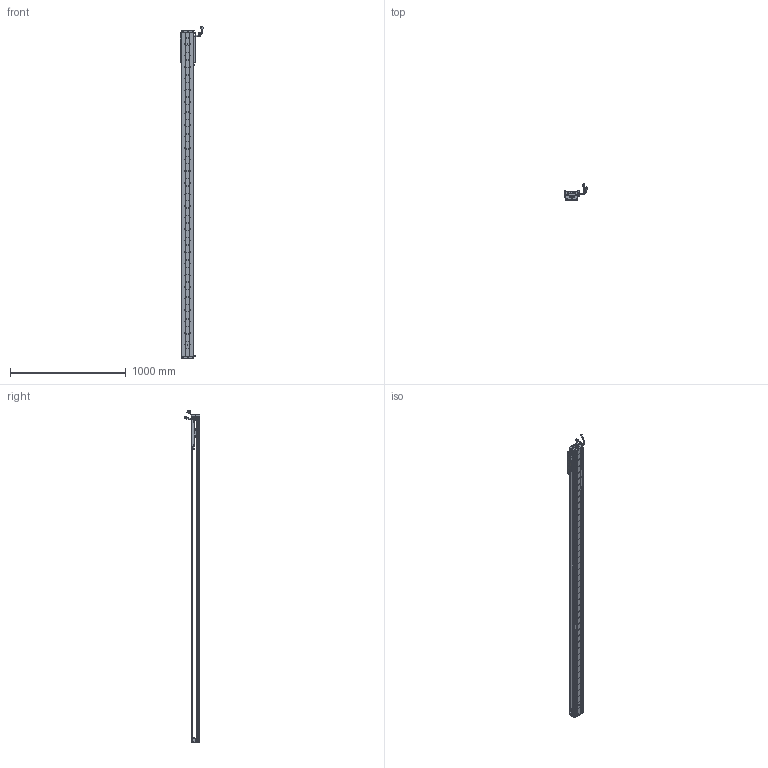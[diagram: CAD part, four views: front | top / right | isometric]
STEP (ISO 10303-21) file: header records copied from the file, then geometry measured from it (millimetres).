
FILE_DESCRIPTION (( 'STEP AP203' ), '1' );
FILE_NAME ('Z3-RY100D-1-L500-B-K.SLDASM_2500.step', '2021-05-17T02:52:28', ( '盈信电脑' ), ( '东莞市道滘镇水果街19号' ), 'SwSTEP 2.0', 'SolidWorks 2016', '' );
FILE_SCHEMA (( 'CONFIG_CONTROL_DESIGN' ));
Length unit declared in the file: millimetre
Products named in the file (36): SCREW-M1.6-3; Z-RY100D詩湍狟揤裔; Z3-RY100-L500詩湍90mm遵_2500; HARNESS-Part-1; Z-100詩湍傷裔啣; HARNESS-Part-2; SCALE-Part-1; SCALE-Part-2; LABEL; Z-RY100D覜茼んえ; LABEL-Part-1; 覜茼ん672; Z3-RY100铝滑块（21款）; Z-RY100D詩湍奻揤裔; Z3-RY100D-500-倰第菁釱_2500; 080黍杅芛假蚾釱21遴; SHIELDPLATE; PSLH080_PSLF2; COVER; SCREW-M1.6; 100-Z-臏賑輸盄裔(21遴); SCREW-M1.7-1; SEAL; SCREW-M1.6-2; SEAL-Part-1; COVER-Part-1; HARNESS; SCALE; Z3-RY100D-1-L500-B-K.SLDASM_2500; SCREW-M1.6-1; 榋妏寠巭燃_暯_M2_2; PBU_SHEET; SCREW-M1.7; 140蚥薯蝶輸; 140雄赽晤鎢ん堤盄; HOLDER0
Assembly tree (43 placements, depth 4):
  Z3-RY100D-1-L500-B-K.SLDASM_2500
    Z3-RY100D-500-倰第菁釱_2500
    Z3-RY100铝滑块（21款）
    PSLH080_PSLF2
      SCALE
        SCALE-Part-1
        SCALE-Part-2
      HARNESS
        HARNESS-Part-1
        HARNESS-Part-2
      LABEL
        LABEL-Part-1
      COVER
        COVER-Part-1
      SEAL
        SEAL-Part-1
      榋妏寠巭燃_暯_M2_2
      SHIELDPLATE
      SCREW-M1.7
      SCREW-M1.7-1
      PBU_SHEET
      SCREW-M1.6
      SCREW-M1.6-1
      SCREW-M1.6-2
      SCREW-M1.6-3
      HOLDER0
    080黍杅芛假蚾釱21遴
    Z-100詩湍傷裔啣  x2
    140蚥薯蝶輸  x2
    覜茼ん672  x3
    Z-RY100D覜茼んえ  x3
    100-Z-臏賑輸盄裔(21遴)
    140雄赽晤鎢ん堤盄
    Z3-RY100-L500詩湍90mm遵_2500
    Z-RY100D詩湍狟揤裔  x2
    Z-RY100D詩湍奻揤裔  x2
Bounding box: 205.79 x 136.11 x 2870.43 mm (x, y, z)
Volume: 5217727.4 mm3; surface area: 2056876.8 mm2
Topology: 38 solids, 38 shells, 3041 faces, 8323 edges, 5316 vertices
Faces by surface type: cylinder 1506, plane 1187, cone 226, torus 69, bspline 53
Entity records: 88421 total; most frequent: CARTESIAN_POINT 18505, DIRECTION 14277, ORIENTED_EDGE 13526, EDGE_CURVE 6763, AXIS2_PLACEMENT_3D 5376, VERTEX_POINT 4384, LINE 3525, VECTOR 3525
